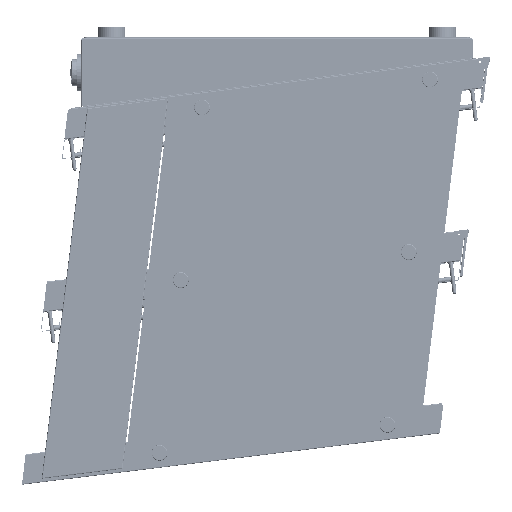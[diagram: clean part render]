
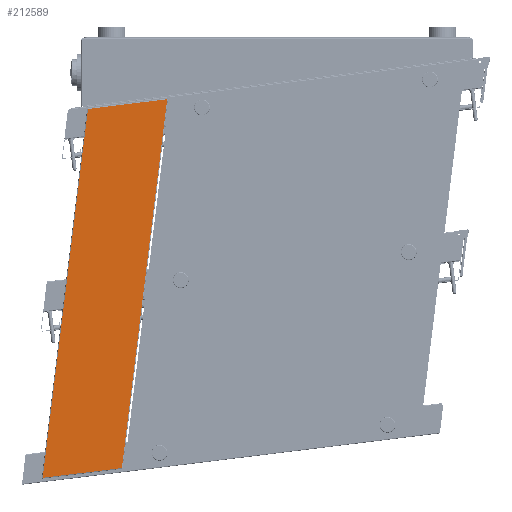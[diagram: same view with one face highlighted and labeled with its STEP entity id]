
A CAD part, left-side view. The second image highlights one B-rep face of the part: STEP entity #212589.
In plain terms, the highlighted planar face has unit normal (-1, 0, 0).
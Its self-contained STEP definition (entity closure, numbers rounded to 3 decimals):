
#12455 = LINE ( 'NONE', #251555, #301759 ) ;
#18987 = VECTOR ( 'NONE', #88423, 1000. ) ;
#19877 = VECTOR ( 'NONE', #258484, 1000. ) ;
#45661 = ORIENTED_EDGE ( 'NONE', *, *, #232507, .T. ) ;
#53133 = AXIS2_PLACEMENT_3D ( 'NONE', #54109, #253238, #377444 ) ;
#54109 = CARTESIAN_POINT ( 'NONE',  ( -400.1, -1.908, -606.042 ) ) ;
#58496 = EDGE_CURVE ( 'NONE', #293630, #167062, #12455, .T. ) ;
#60135 = CARTESIAN_POINT ( 'NONE',  ( -400.1, -10.646, -55.07 ) ) ;
#88423 = DIRECTION ( 'NONE',  ( 0., 0.993, -0.122 ) ) ;
#102351 = LINE ( 'NONE', #339539, #288959 ) ;
#106057 = DIRECTION ( 'NONE',  ( 0., -0.122, 0.993 ) ) ;
#115649 = VERTEX_POINT ( 'NONE', #342778 ) ;
#132526 = CARTESIAN_POINT ( 'NONE',  ( -400.1, -61.873, -597.471 ) ) ;
#134863 = DIRECTION ( 'NONE',  ( 0., 0.122, -0.993 ) ) ;
#141762 = LINE ( 'NONE', #344541, #19877 ) ;
#167062 = VERTEX_POINT ( 'NONE', #60135 ) ;
#177949 = VERTEX_POINT ( 'NONE', #132526 ) ;
#178362 = CARTESIAN_POINT ( 'NONE',  ( -400.1, -130.274, -40.382 ) ) ;
#205154 = EDGE_LOOP ( 'NONE', ( #327038, #313351, #289284, #45661 ) ) ;
#212589 = ADVANCED_FACE ( 'NONE', ( #312539 ), #316289, .F. ) ;
#232507 = EDGE_CURVE ( 'NONE', #293630, #177949, #141762, .T. ) ;
#251555 = CARTESIAN_POINT ( 'NONE',  ( -400.1, 57.756, -612.159 ) ) ;
#253238 = DIRECTION ( 'NONE',  ( 1., 0., 0. ) ) ;
#258484 = DIRECTION ( 'NONE',  ( 0., -0.993, 0.122 ) ) ;
#278797 = EDGE_CURVE ( 'NONE', #115649, #167062, #350600, .T. ) ;
#288959 = VECTOR ( 'NONE', #134863, 1000. ) ;
#289284 = ORIENTED_EDGE ( 'NONE', *, *, #58496, .F. ) ;
#293630 = VERTEX_POINT ( 'NONE', #362527 ) ;
#301759 = VECTOR ( 'NONE', #106057, 1000. ) ;
#312539 = FACE_OUTER_BOUND ( 'NONE', #205154, .T. ) ;
#313351 = ORIENTED_EDGE ( 'NONE', *, *, #278797, .T. ) ;
#316289 = PLANE ( 'NONE',  #53133 ) ;
#327038 = ORIENTED_EDGE ( 'NONE', *, *, #342005, .F. ) ;
#339539 = CARTESIAN_POINT ( 'NONE',  ( -400.1, -130.274, -40.382 ) ) ;
#342005 = EDGE_CURVE ( 'NONE', #115649, #177949, #102351, .T. ) ;
#342778 = CARTESIAN_POINT ( 'NONE',  ( -400.1, -130.274, -40.382 ) ) ;
#344541 = CARTESIAN_POINT ( 'NONE',  ( -400.1, 57.756, -612.159 ) ) ;
#350600 = LINE ( 'NONE', #178362, #18987 ) ;
#362527 = CARTESIAN_POINT ( 'NONE',  ( -400.1, 57.756, -612.159 ) ) ;
#377444 = DIRECTION ( 'NONE',  ( 0., -0.122, -0.993 ) ) ;
